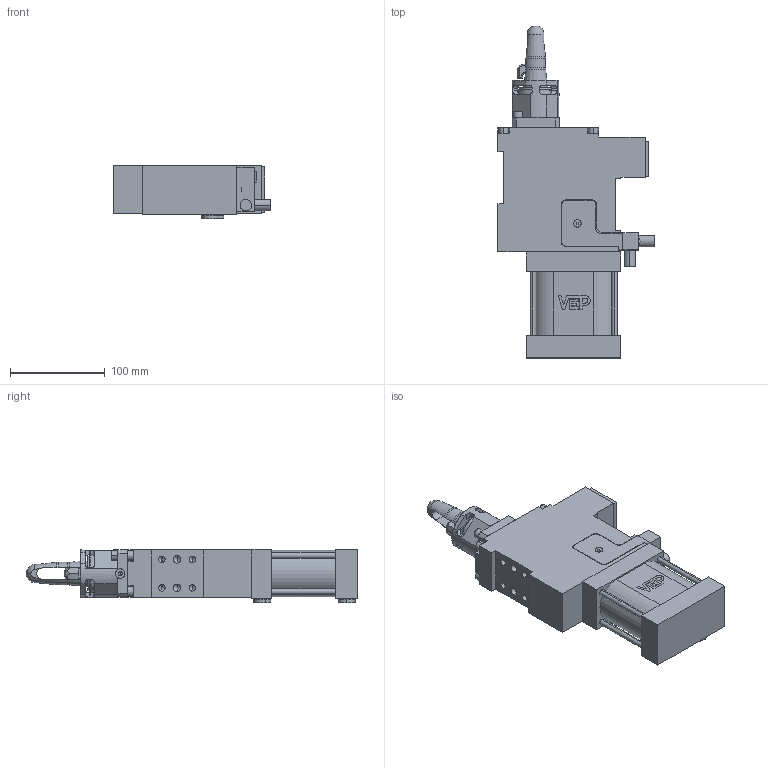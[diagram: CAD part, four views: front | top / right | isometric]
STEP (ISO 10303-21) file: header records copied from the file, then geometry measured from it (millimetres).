
FILE_DESCRIPTION (( 'STEP AP214' ), '1' );
FILE_NAME ('dca63cvi_09876nt3.STEP', '2021-11-30T08:10:30', ( '' ), ( '' ), 'SwSTEP 2.0', 'SolidWorks 2021', '' );
FILE_SCHEMA (( 'AUTOMOTIVE_DESIGN' ));
Length unit declared in the file: millimetre
Products named in the file (1): dca63cvi_09876nt3
Bounding box: 165 x 350.5 x 57 mm (x, y, z)
Volume: 1287608.1 mm3; surface area: 206332.3 mm2
Topology: 15 solids, 15 shells, 924 faces, 2431 edges, 1541 vertices
Faces by surface type: plane 471, cylinder 287, cone 80, torus 74, bspline 10, sphere 2
Entity records: 40113 total; most frequent: CARTESIAN_POINT 7019, ORIENTED_EDGE 4786, DIRECTION 4692, EDGE_CURVE 2393, AXIS2_PLACEMENT_3D 1650, VERTEX_POINT 1541, LINE 1392, VECTOR 1392
